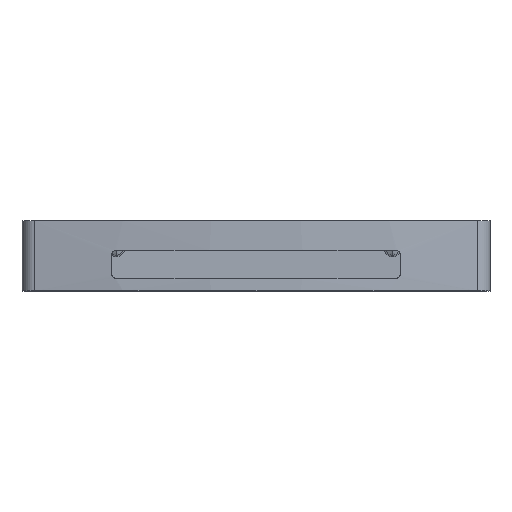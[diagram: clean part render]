
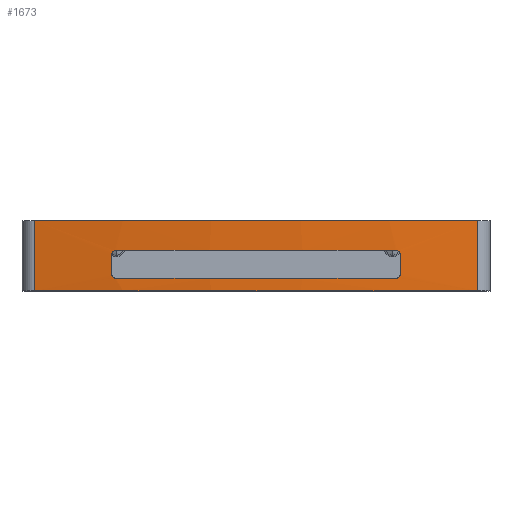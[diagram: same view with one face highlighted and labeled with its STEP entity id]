
A CAD part, top view. The second image highlights one B-rep face of the part: STEP entity #1673.
In plain terms, the highlighted cylindrical face has radius 810.571 mm (diameter 1621.14 mm), a partial arc.
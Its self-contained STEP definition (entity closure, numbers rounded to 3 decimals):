
#23=CARTESIAN_POINT('',(0.,0.,-739.071));
#24=DIRECTION('',(0.,1.,0.));
#25=DIRECTION('',(-0.175,0.,0.985));
#26=AXIS2_PLACEMENT_3D('',#23,#24,#25);
#304=DIRECTION('',(0.,-1.,0.));
#305=VECTOR('',#304,45.);
#306=CARTESIAN_POINT('',(141.749,45.,59.01));
#307=LINE('',#306,#305);
#308=DIRECTION('',(0.,-1.,0.));
#309=VECTOR('',#308,45.);
#310=CARTESIAN_POINT('',(-141.749,45.,59.01));
#311=LINE('',#310,#309);
#312=CARTESIAN_POINT('',(0.,26.,-739.071));
#313=DIRECTION('',(0.,1.,0.));
#314=DIRECTION('',(-0.11,0.,0.994));
#315=AXIS2_PLACEMENT_3D('',#312,#313,#314);
#317=DIRECTION('',(0.,1.,0.));
#318=VECTOR('',#317,12.);
#319=CARTESIAN_POINT('',(-92.5,11.,66.205));
#320=LINE('',#319,#318);
#321=CARTESIAN_POINT('',(0.,8.,-739.071));
#322=DIRECTION('',(0.,1.,0.));
#323=DIRECTION('',(-0.11,0.,0.994));
#324=AXIS2_PLACEMENT_3D('',#321,#322,#323);
#326=DIRECTION('',(0.,1.,0.));
#327=VECTOR('',#326,12.);
#328=CARTESIAN_POINT('',(92.5,11.,66.205));
#329=LINE('',#328,#327);
#387=CARTESIAN_POINT('',(0.,45.,-739.071));
#388=DIRECTION('',(0.,1.,0.));
#389=DIRECTION('',(-0.175,0.,0.985));
#390=AXIS2_PLACEMENT_3D('',#387,#388,#389);
#975=CARTESIAN_POINT('',(-92.5,23.,66.205));
#976=CARTESIAN_POINT('',(-92.5,23.312,66.205));
#977=CARTESIAN_POINT('',(-92.403,23.937,66.216));
#978=CARTESIAN_POINT('',(-91.966,24.793,66.266));
#979=CARTESIAN_POINT('',(-91.301,25.461,66.342));
#980=CARTESIAN_POINT('',(-90.441,25.902,66.439));
#981=CARTESIAN_POINT('',(-89.814,26.,66.509));
#982=CARTESIAN_POINT('',(-89.5,26.,66.544));
#1001=CARTESIAN_POINT('',(89.5,26.,66.544));
#1002=CARTESIAN_POINT('',(89.814,26.,66.509));
#1003=CARTESIAN_POINT('',(90.442,25.902,66.439));
#1004=CARTESIAN_POINT('',(91.299,25.463,66.342));
#1005=CARTESIAN_POINT('',(91.965,24.796,66.266));
#1006=CARTESIAN_POINT('',(92.403,23.936,66.216));
#1007=CARTESIAN_POINT('',(92.5,23.312,66.205));
#1008=CARTESIAN_POINT('',(92.5,23.,66.205));
#1027=CARTESIAN_POINT('',(92.5,11.,66.205));
#1028=CARTESIAN_POINT('',(92.5,10.688,66.205));
#1029=CARTESIAN_POINT('',(92.403,10.063,66.216));
#1030=CARTESIAN_POINT('',(91.966,9.207,66.266));
#1031=CARTESIAN_POINT('',(91.301,8.539,66.342));
#1032=CARTESIAN_POINT('',(90.441,8.098,66.439));
#1033=CARTESIAN_POINT('',(89.814,8.,66.509));
#1034=CARTESIAN_POINT('',(89.5,8.,66.544));
#1053=CARTESIAN_POINT('',(-89.5,8.,66.544));
#1054=CARTESIAN_POINT('',(-89.814,8.,66.509));
#1055=CARTESIAN_POINT('',(-90.442,8.098,66.439));
#1056=CARTESIAN_POINT('',(-91.299,8.537,66.342));
#1057=CARTESIAN_POINT('',(-91.965,9.204,66.266));
#1058=CARTESIAN_POINT('',(-92.403,10.064,66.216));
#1059=CARTESIAN_POINT('',(-92.5,10.688,66.205));
#1060=CARTESIAN_POINT('',(-92.5,11.,66.205));
#1144=CARTESIAN_POINT('',(141.749,0.,59.01));
#1146=VERTEX_POINT('',#1144);
#1147=CARTESIAN_POINT('',(141.749,45.,59.01));
#1148=VERTEX_POINT('',#1147);
#1151=CARTESIAN_POINT('',(-141.749,0.,59.01));
#1153=VERTEX_POINT('',#1151);
#1157=CARTESIAN_POINT('',(-141.749,45.,59.01));
#1158=VERTEX_POINT('',#1157);
#1427=CARTESIAN_POINT('',(89.5,26.,66.544));
#1429=VERTEX_POINT('',#1427);
#1431=CARTESIAN_POINT('',(92.5,23.,66.205));
#1433=VERTEX_POINT('',#1431);
#1435=CARTESIAN_POINT('',(-92.5,23.,66.205));
#1437=VERTEX_POINT('',#1435);
#1439=CARTESIAN_POINT('',(-89.5,26.,66.544));
#1441=VERTEX_POINT('',#1439);
#1443=CARTESIAN_POINT('',(-89.5,8.,66.544));
#1445=VERTEX_POINT('',#1443);
#1447=CARTESIAN_POINT('',(-92.5,11.,66.205));
#1449=VERTEX_POINT('',#1447);
#1451=CARTESIAN_POINT('',(92.5,11.,66.205));
#1453=VERTEX_POINT('',#1451);
#1455=CARTESIAN_POINT('',(89.5,8.,66.544));
#1457=VERTEX_POINT('',#1455);
#1642=CARTESIAN_POINT('',(0.,0.,-739.071));
#1643=DIRECTION('',(0.,1.,0.));
#1644=DIRECTION('',(1.,0.,0.));
#1645=AXIS2_PLACEMENT_3D('',#1642,#1643,#1644);
#1646=CYLINDRICAL_SURFACE('',#1645,810.571);
#1647=ORIENTED_EDGE('',*,*,#1633,.T.);
#1648=ORIENTED_EDGE('',*,*,#1474,.F.);
#1650=ORIENTED_EDGE('',*,*,#1649,.F.);
#1652=ORIENTED_EDGE('',*,*,#1651,.T.);
#1653=EDGE_LOOP('',(#1647,#1648,#1650,#1652));
#1654=FACE_OUTER_BOUND('',#1653,.F.);
#1656=ORIENTED_EDGE('',*,*,#1655,.F.);
#1658=ORIENTED_EDGE('',*,*,#1657,.F.);
#1660=ORIENTED_EDGE('',*,*,#1659,.F.);
#1662=ORIENTED_EDGE('',*,*,#1661,.F.);
#1664=ORIENTED_EDGE('',*,*,#1663,.T.);
#1666=ORIENTED_EDGE('',*,*,#1665,.F.);
#1668=ORIENTED_EDGE('',*,*,#1667,.T.);
#1670=ORIENTED_EDGE('',*,*,#1669,.F.);
#1671=EDGE_LOOP('',(#1656,#1658,#1660,#1662,#1664,#1666,#1668,#1670));
#1672=FACE_BOUND('',#1671,.F.);
#27=CIRCLE('',#26,810.571);
#316=CIRCLE('',#315,810.571);
#325=CIRCLE('',#324,810.571);
#391=CIRCLE('',#390,810.571);
#983=B_SPLINE_CURVE_WITH_KNOTS('',3,(#975,#976,#977,#978,#979,#980,#981,#982),
.UNSPECIFIED.,.F.,.F.,(4,1,1,1,1,4),(0.,0.2,0.4,0.6,0.8,1.),
.UNSPECIFIED.);
#1009=B_SPLINE_CURVE_WITH_KNOTS('',3,(#1001,#1002,#1003,#1004,#1005,#1006,#1007,
#1008),.UNSPECIFIED.,.F.,.F.,(4,1,1,1,1,4),(0.,0.2,0.4,0.6,0.8,1.),
.UNSPECIFIED.);
#1035=B_SPLINE_CURVE_WITH_KNOTS('',3,(#1027,#1028,#1029,#1030,#1031,#1032,#1033,
#1034),.UNSPECIFIED.,.F.,.F.,(4,1,1,1,1,4),(0.,0.2,0.4,0.6,0.8,1.),
.UNSPECIFIED.);
#1061=B_SPLINE_CURVE_WITH_KNOTS('',3,(#1053,#1054,#1055,#1056,#1057,#1058,#1059,
#1060),.UNSPECIFIED.,.F.,.F.,(4,1,1,1,1,4),(0.,0.2,0.4,0.6,0.8,1.),
.UNSPECIFIED.);
#1474=EDGE_CURVE('',#1153,#1146,#27,.T.);
#1633=EDGE_CURVE('',#1148,#1146,#307,.T.);
#1649=EDGE_CURVE('',#1158,#1153,#311,.T.);
#1651=EDGE_CURVE('',#1158,#1148,#391,.T.);
#1655=EDGE_CURVE('',#1441,#1429,#316,.T.);
#1657=EDGE_CURVE('',#1437,#1441,#983,.T.);
#1659=EDGE_CURVE('',#1449,#1437,#320,.T.);
#1661=EDGE_CURVE('',#1445,#1449,#1061,.T.);
#1663=EDGE_CURVE('',#1445,#1457,#325,.T.);
#1665=EDGE_CURVE('',#1453,#1457,#1035,.T.);
#1667=EDGE_CURVE('',#1453,#1433,#329,.T.);
#1669=EDGE_CURVE('',#1429,#1433,#1009,.T.);
#1673=ADVANCED_FACE('',(#1654,#1672),#1646,.T.);
